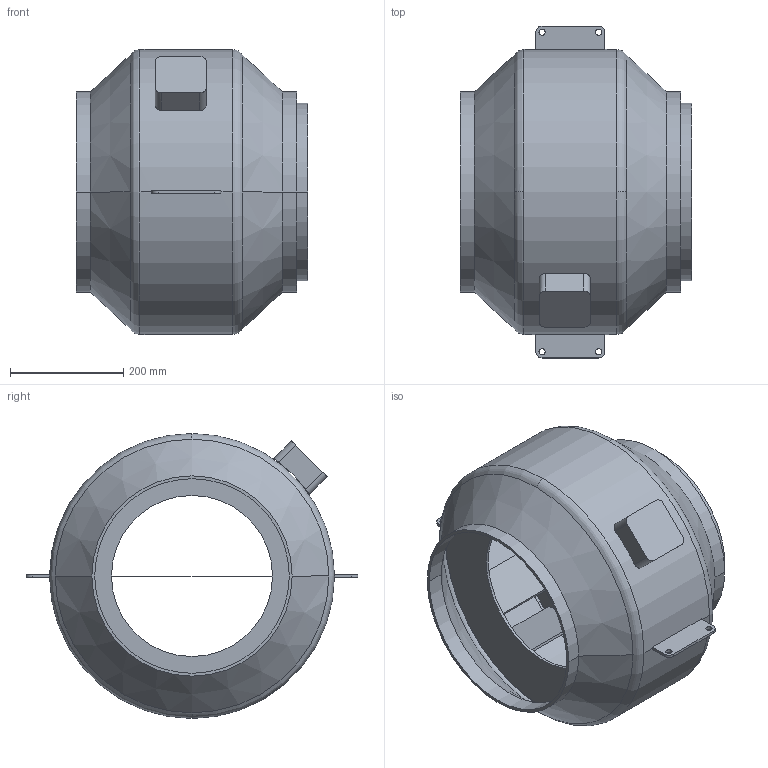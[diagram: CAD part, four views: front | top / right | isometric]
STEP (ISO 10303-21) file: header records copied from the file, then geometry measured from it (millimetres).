
FILE_DESCRIPTION(('STEP AP214'),'1');
FILE_NAME('5145880700.stp','2019-05-13T14:54:53',('TraceParts'),('TraceParts S.A.'),'Spatial InterOp 3D',' ',' ');
FILE_SCHEMA(('AUTOMOTIVE_DESIGN { 1 0 10303 214 1 1 1 1 }'));
Length unit declared in the file: millimetre
Products named in the file (1): 5145880700_1
Bounding box: 410 x 587 x 504 mm (x, y, z)
Volume: 6487979.2 mm3; surface area: 2288996.3 mm2
Topology: 2 solids, 2 shells, 135 faces, 371 edges, 244 vertices
Faces by surface type: plane 71, cylinder 48, cone 8, torus 8
Entity records: 5787 total; most frequent: CARTESIAN_POINT 1066, DIRECTION 763, ORIENTED_EDGE 742, EDGE_CURVE 371, AXIS2_PLACEMENT_3D 265, VERTEX_POINT 244, LINE 233, VECTOR 233
